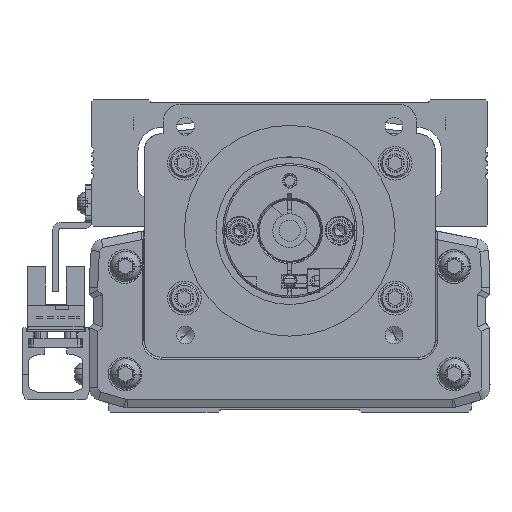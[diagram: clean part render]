
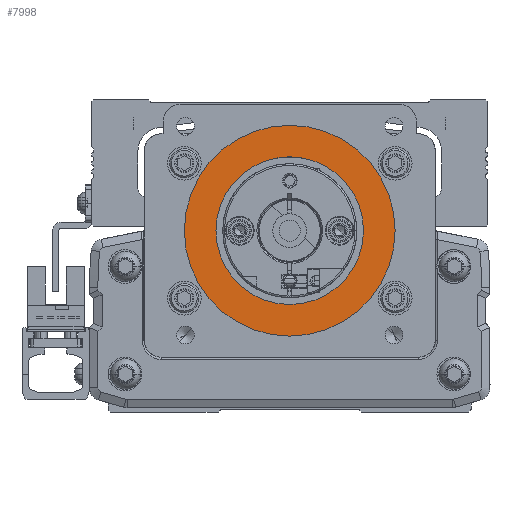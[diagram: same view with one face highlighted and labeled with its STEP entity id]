
A CAD part, front view. The second image highlights one B-rep face of the part: STEP entity #7998.
In plain terms, the highlighted planar face has unit normal (0, -1, 0).
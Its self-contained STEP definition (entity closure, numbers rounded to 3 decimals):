
#7998=ADVANCED_FACE('',(#17653,#17654),#17655,.T.);
#17653=FACE_BOUND('',#30618,.T.);
#17654=FACE_OUTER_BOUND('',#30619,.T.);
#17655=PLANE('',#30620);
#30618=EDGE_LOOP('',(#54495,#54496));
#30619=EDGE_LOOP('',(#54497,#54498));
#30620=AXIS2_PLACEMENT_3D('',#54499,#54500,#54501);
#54495=ORIENTED_EDGE('',*,*,#74085,.T.);
#54496=ORIENTED_EDGE('',*,*,#78431,.T.);
#54497=ORIENTED_EDGE('',*,*,#74320,.F.);
#54498=ORIENTED_EDGE('',*,*,#78432,.F.);
#54499=CARTESIAN_POINT('',(0.,-310.778,0.));
#54500=DIRECTION('',(0.,-1.0,0.));
#54501=DIRECTION('',(1.0,0.,0.));
#74085=EDGE_CURVE('',#90381,#90379,#90382,.T.);
#74320=EDGE_CURVE('',#90739,#90742,#90743,.T.);
#78431=EDGE_CURVE('',#90379,#90381,#96595,.T.);
#78432=EDGE_CURVE('',#90742,#90739,#96596,.T.);
#90379=VERTEX_POINT('',#112914);
#90381=VERTEX_POINT('',#112917);
#90382=CIRCLE('',#112918,17.5);
#90739=VERTEX_POINT('',#113466);
#90742=VERTEX_POINT('',#113470);
#90743=CIRCLE('',#113471,25.0);
#96595=CIRCLE('',#121959,17.5);
#96596=CIRCLE('',#121960,25.0);
#112914=CARTESIAN_POINT('',(-17.5,-310.778,0.));
#112917=CARTESIAN_POINT('',(17.5,-310.778,0.));
#112918=AXIS2_PLACEMENT_3D('',#133987,#133988,#133989);
#113466=CARTESIAN_POINT('',(25.,-310.778,0.));
#113470=CARTESIAN_POINT('',(-25.,-310.778,0.));
#113471=AXIS2_PLACEMENT_3D('',#134286,#134287,#134288);
#121959=AXIS2_PLACEMENT_3D('',#139774,#139775,#139776);
#121960=AXIS2_PLACEMENT_3D('',#139777,#139778,#139779);
#133987=CARTESIAN_POINT('',(0.,-310.778,0.));
#133988=DIRECTION('',(0.,1.0,0.));
#133989=DIRECTION('',(-1.0,0.,0.));
#134286=CARTESIAN_POINT('',(0.,-310.778,0.));
#134287=DIRECTION('',(0.,1.0,0.));
#134288=DIRECTION('',(1.0,0.,0.));
#139774=CARTESIAN_POINT('',(0.,-310.778,0.));
#139775=DIRECTION('',(0.,1.0,0.));
#139776=DIRECTION('',(-1.0,0.,0.));
#139777=CARTESIAN_POINT('',(0.,-310.778,0.));
#139778=DIRECTION('',(0.,1.0,0.));
#139779=DIRECTION('',(1.0,0.,0.));
